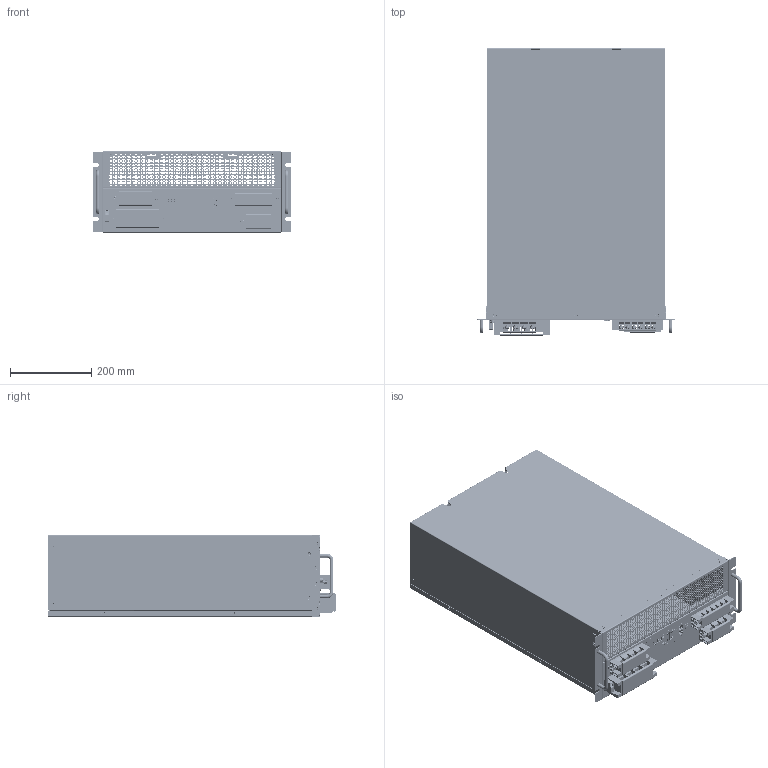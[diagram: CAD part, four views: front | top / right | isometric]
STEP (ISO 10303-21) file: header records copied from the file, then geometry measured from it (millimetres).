
FILE_DESCRIPTION (( 'STEP AP214' ), '1' );
FILE_NAME ('SP60HCG2_»ú¿ÇG2.STEP', '2025-03-20T08:26:01', ( '' ), ( '' ), 'SwSTEP 2.0', 'SolidWorks 2020', '' );
FILE_SCHEMA (( 'AUTOMOTIVE_DESIGN' ));
Length unit declared in the file: millimetre
Products named in the file (1): SP60HCG2_儂褲G2
Bounding box: 490 x 708 x 200 mm (x, y, z)
Surface area: 2455239.6 mm2 (no closed solid volume)
Topology: 0 solids, 265 shells, 18524 faces, 49801 edges, 32389 vertices
Faces by surface type: plane 15018, cylinder 1706, bspline 1004, cone 764, torus 20, sphere 12
Entity records: 800509 total; most frequent: CARTESIAN_POINT 130644, ORIENTED_EDGE 99546, DIRECTION 86457, EDGE_CURVE 49777, VECTOR 42517, LINE 42517, VERTEX_POINT 32377, AXIS2_PLACEMENT_3D 21970
